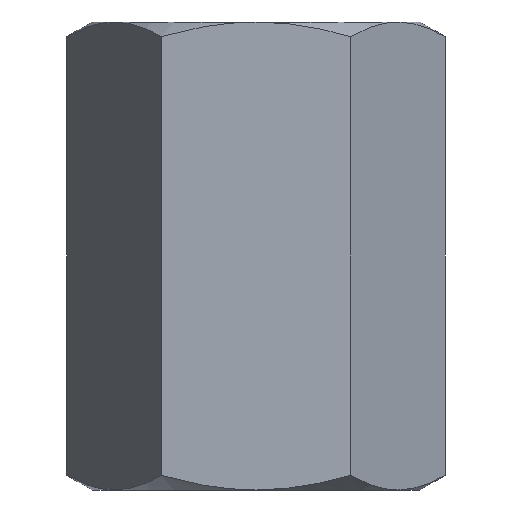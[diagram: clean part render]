
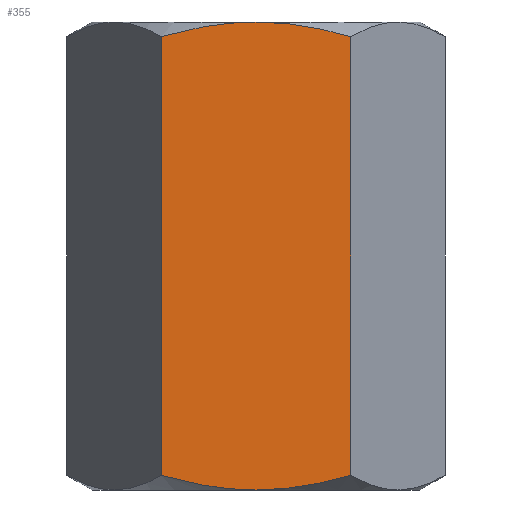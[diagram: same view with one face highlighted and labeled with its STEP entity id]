
A CAD part, front view. The second image highlights one B-rep face of the part: STEP entity #355.
In plain terms, the highlighted planar face has unit normal (0, -1, 0).
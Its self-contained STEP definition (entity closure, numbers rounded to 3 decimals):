
#13 = CARTESIAN_POINT ( 'NONE',  ( 2.021, -3.5, -4.687 ) ) ;
#26 = ORIENTED_EDGE ( 'NONE', *, *, #455, .T. ) ;
#30 = AXIS2_PLACEMENT_3D ( 'NONE', #182, #454, #117 ) ;
#34 = CARTESIAN_POINT ( 'NONE',  ( 0.341, -3.5, -5. ) ) ;
#37 = CARTESIAN_POINT ( 'NONE',  ( -1.354, -3.5, 4.862 ) ) ;
#60 = CARTESIAN_POINT ( 'NONE',  ( -1.362, -3.5, -4.861 ) ) ;
#73 = CARTESIAN_POINT ( 'NONE',  ( 2.021, -3.5, -5. ) ) ;
#102 = CARTESIAN_POINT ( 'NONE',  ( 0.68, -3.5, -4.971 ) ) ;
#114 = CARTESIAN_POINT ( 'NONE',  ( 0., -3.5, 5. ) ) ;
#117 = DIRECTION ( 'NONE',  ( 1., 0., 0. ) ) ;
#123 = ORIENTED_EDGE ( 'NONE', *, *, #452, .F. ) ;
#126 = CARTESIAN_POINT ( 'NONE',  ( 0., -3.5, -5. ) ) ;
#134 = CARTESIAN_POINT ( 'NONE',  ( 1.694, -3.5, 4.782 ) ) ;
#138 = DIRECTION ( 'NONE',  ( 0., 0., 1. ) ) ;
#164 = ORIENTED_EDGE ( 'NONE', *, *, #815, .T. ) ;
#182 = CARTESIAN_POINT ( 'NONE',  ( -2.021, -3.5, -5. ) ) ;
#189 = LINE ( 'NONE', #73, #304 ) ;
#204 = CARTESIAN_POINT ( 'NONE',  ( 0., -3.5, 5. ) ) ;
#254 = CARTESIAN_POINT ( 'NONE',  ( 2.021, -3.5, 4.687 ) ) ;
#266 = B_SPLINE_CURVE_WITH_KNOTS ( 'NONE', 3,
 ( #439, #34, #102, #376, #722, #595 ),
 .UNSPECIFIED., .F., .F.,
 ( 4, 2, 4 ),
 ( 0.009, 0.01, 0.011 ),
 .UNSPECIFIED. ) ;
#287 = CARTESIAN_POINT ( 'NONE',  ( -2.021, -3.5, -5. ) ) ;
#304 = VECTOR ( 'NONE', #676, 1000. ) ;
#314 = VERTEX_POINT ( 'NONE', #254 ) ;
#326 = VERTEX_POINT ( 'NONE', #114 ) ;
#332 = ORIENTED_EDGE ( 'NONE', *, *, #372, .T. ) ;
#341 = VERTEX_POINT ( 'NONE', #596 ) ;
#352 = VERTEX_POINT ( 'NONE', #126 ) ;
#355 = ADVANCED_FACE ( 'NONE', ( #797 ), #395, .T. ) ;
#362 = CARTESIAN_POINT ( 'NONE',  ( -0.681, -3.5, 4.971 ) ) ;
#366 = B_SPLINE_CURVE_WITH_KNOTS ( 'NONE', 3,
 ( #391, #673, #60, #551, #540, #472 ),
 .UNSPECIFIED., .F., .F.,
 ( 4, 2, 4 ),
 ( 0.006, 0.008, 0.009 ),
 .UNSPECIFIED. ) ;
#372 = EDGE_CURVE ( 'NONE', #341, #352, #366, .T. ) ;
#376 = CARTESIAN_POINT ( 'NONE',  ( 1.354, -3.5, -4.862 ) ) ;
#383 = CARTESIAN_POINT ( 'NONE',  ( 0.687, -3.5, 4.97 ) ) ;
#391 = CARTESIAN_POINT ( 'NONE',  ( -2.021, -3.5, -4.687 ) ) ;
#395 = PLANE ( 'NONE',  #30 ) ;
#404 = CARTESIAN_POINT ( 'NONE',  ( 2.021, -3.5, 4.687 ) ) ;
#436 = CARTESIAN_POINT ( 'NONE',  ( -0.342, -3.5, 5. ) ) ;
#439 = CARTESIAN_POINT ( 'NONE',  ( 0., -3.5, -5. ) ) ;
#452 = EDGE_CURVE ( 'NONE', #326, #314, #805, .T. ) ;
#454 = DIRECTION ( 'NONE',  ( 0., -1., 0. ) ) ;
#455 = EDGE_CURVE ( 'NONE', #671, #314, #189, .T. ) ;
#472 = CARTESIAN_POINT ( 'NONE',  ( 0., -3.5, -5. ) ) ;
#506 = CARTESIAN_POINT ( 'NONE',  ( -1.69, -3.5, 4.783 ) ) ;
#520 = ORIENTED_EDGE ( 'NONE', *, *, #737, .F. ) ;
#540 = CARTESIAN_POINT ( 'NONE',  ( -0.34, -3.5, -5. ) ) ;
#551 = CARTESIAN_POINT ( 'NONE',  ( -0.685, -3.5, -4.97 ) ) ;
#595 = CARTESIAN_POINT ( 'NONE',  ( 2.021, -3.5, -4.687 ) ) ;
#596 = CARTESIAN_POINT ( 'NONE',  ( -2.021, -3.5, -4.687 ) ) ;
#614 = VERTEX_POINT ( 'NONE', #756 ) ;
#632 = VECTOR ( 'NONE', #138, 1000. ) ;
#635 = LINE ( 'NONE', #287, #632 ) ;
#649 = CARTESIAN_POINT ( 'NONE',  ( -2.021, -3.5, 4.687 ) ) ;
#671 = VERTEX_POINT ( 'NONE', #13 ) ;
#673 = CARTESIAN_POINT ( 'NONE',  ( -1.693, -3.5, -4.782 ) ) ;
#676 = DIRECTION ( 'NONE',  ( 0., 0., 1. ) ) ;
#704 = EDGE_CURVE ( 'NONE', #341, #614, #635, .T. ) ;
#722 = CARTESIAN_POINT ( 'NONE',  ( 1.691, -3.5, -4.783 ) ) ;
#737 = EDGE_CURVE ( 'NONE', #614, #326, #778, .T. ) ;
#740 = ORIENTED_EDGE ( 'NONE', *, *, #704, .F. ) ;
#745 = CARTESIAN_POINT ( 'NONE',  ( 0.341, -3.5, 5. ) ) ;
#756 = CARTESIAN_POINT ( 'NONE',  ( -2.021, -3.5, 4.687 ) ) ;
#778 = B_SPLINE_CURVE_WITH_KNOTS ( 'NONE', 3,
 ( #649, #506, #37, #362, #436, #847 ),
 .UNSPECIFIED., .F., .F.,
 ( 4, 2, 4 ),
 ( 0.01, 0.011, 0.012 ),
 .UNSPECIFIED. ) ;
#797 = FACE_OUTER_BOUND ( 'NONE', #874, .T. ) ;
#805 = B_SPLINE_CURVE_WITH_KNOTS ( 'NONE', 3,
 ( #204, #745, #383, #863, #134, #404 ),
 .UNSPECIFIED., .F., .F.,
 ( 4, 2, 4 ),
 ( 0.012, 0.013, 0.014 ),
 .UNSPECIFIED. ) ;
#815 = EDGE_CURVE ( 'NONE', #352, #671, #266, .T. ) ;
#847 = CARTESIAN_POINT ( 'NONE',  ( 0., -3.5, 5. ) ) ;
#863 = CARTESIAN_POINT ( 'NONE',  ( 1.363, -3.5, 4.86 ) ) ;
#874 = EDGE_LOOP ( 'NONE', ( #520, #740, #332, #164, #26, #123 ) ) ;
